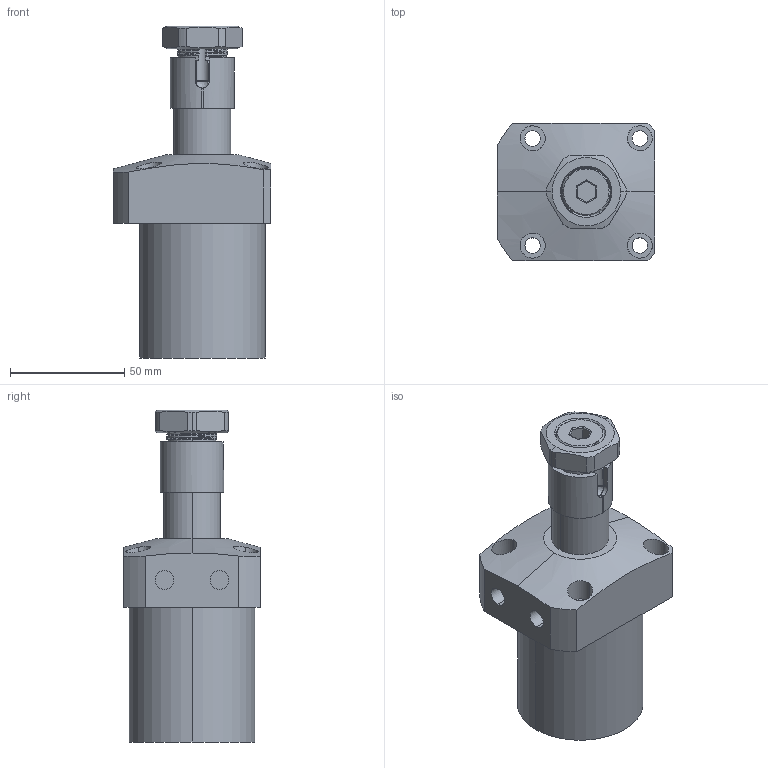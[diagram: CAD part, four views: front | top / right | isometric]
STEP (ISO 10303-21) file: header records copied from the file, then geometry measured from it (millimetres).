
FILE_DESCRIPTION(('FreeCAD Model'),'2;1');
FILE_NAME('Open CASCADE Shape Model','2021-08-17T18:41:43',('Author'),( ''),'Open CASCADE STEP processor 7.4','FreeCAD','Unknown');
FILE_SCHEMA(('AUTOMOTIVE_DESIGN { 1 0 10303 214 1 1 1 1 }'));
Length unit declared in the file: millimetre
Products named in the file (5): HCA-055SRX90; HCA-055S-001; HCA-055S-002; HCA-055S-003; HCA-055S-004
Assembly tree (4 placements, depth 2):
  HCA-055SRX90
    HCA-055S-001
    HCA-055S-002
    HCA-055S-003
    HCA-055S-004
Bounding box: 69 x 60 x 145.5 mm (x, y, z)
Volume: 247841.7 mm3; surface area: 53905.5 mm2
Topology: 4 solids, 4 shells, 176 faces, 461 edges, 302 vertices
Faces by surface type: cylinder 92, plane 44, bspline 22, cone 18
Entity records: 26476 total; most frequent: CARTESIAN_POINT 18188, DIRECTION 1250, ORIENTED_EDGE 918, PCURVE 918, DEFINITIONAL_REPRESENTATION 918, LINE 661, VECTOR 661, EDGE_CURVE 459
